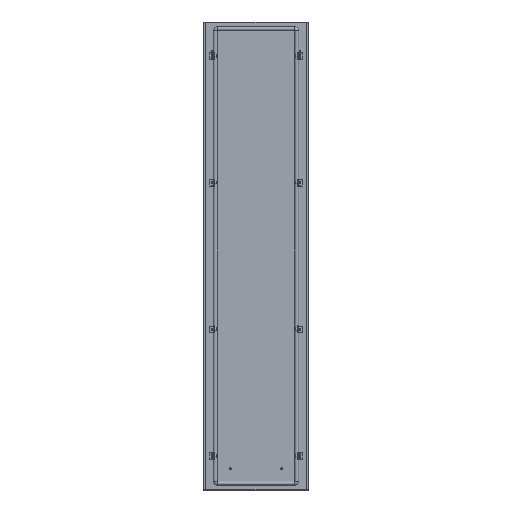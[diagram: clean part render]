
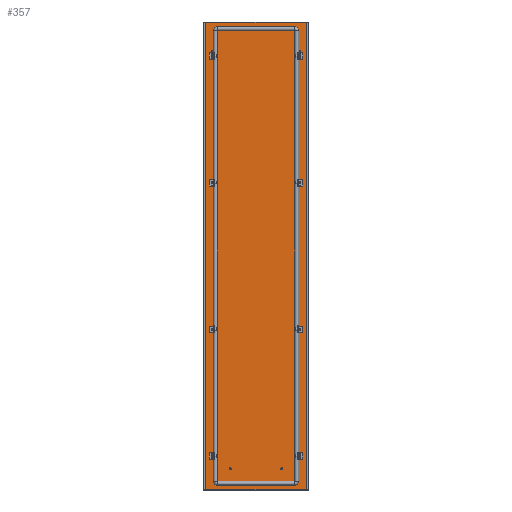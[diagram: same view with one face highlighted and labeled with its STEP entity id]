
A CAD part, top view. The second image highlights one B-rep face of the part: STEP entity #357.
In plain terms, the highlighted planar face has unit normal (0, 0, 1).
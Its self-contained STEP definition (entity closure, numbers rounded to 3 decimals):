
#357 = ADVANCED_FACE('',(#358,#456,#467,#478,#498,#518,#529,#540,#560),
  #580,.F.);
#358 = FACE_BOUND('',#359,.T.);
#359 = EDGE_LOOP('',(#360,#370,#378,#386,#394,#402,#410,#418,#426,#434,
    #442,#450));
#360 = ORIENTED_EDGE('',*,*,#361,.F.);
#361 = EDGE_CURVE('',#362,#364,#366,.T.);
#362 = VERTEX_POINT('',#363);
#363 = CARTESIAN_POINT('',(-195.5,877.5,0.));
#364 = VERTEX_POINT('',#365);
#365 = CARTESIAN_POINT('',(-195.3,877.5,0.));
#366 = LINE('',#367,#368);
#367 = CARTESIAN_POINT('',(0.,877.5,0.
    ));
#368 = VECTOR('',#369,1.);
#369 = DIRECTION('',(1.,0.,0.));
#370 = ORIENTED_EDGE('',*,*,#371,.T.);
#371 = EDGE_CURVE('',#362,#372,#374,.T.);
#372 = VERTEX_POINT('',#373);
#373 = CARTESIAN_POINT('',(-195.5,-877.5,0.));
#374 = LINE('',#375,#376);
#375 = CARTESIAN_POINT('',(-195.5,0.,0.));
#376 = VECTOR('',#377,1.);
#377 = DIRECTION('',(0.,-1.,-0.));
#378 = ORIENTED_EDGE('',*,*,#379,.T.);
#379 = EDGE_CURVE('',#372,#380,#382,.T.);
#380 = VERTEX_POINT('',#381);
#381 = CARTESIAN_POINT('',(-195.3,-877.5,0.));
#382 = LINE('',#383,#384);
#383 = CARTESIAN_POINT('',(0.,-877.5,
    0.));
#384 = VECTOR('',#385,1.);
#385 = DIRECTION('',(1.,-0.,-0.));
#386 = ORIENTED_EDGE('',*,*,#387,.F.);
#387 = EDGE_CURVE('',#388,#380,#390,.T.);
#388 = VERTEX_POINT('',#389);
#389 = CARTESIAN_POINT('',(-195.3,-876.,0.));
#390 = LINE('',#391,#392);
#391 = CARTESIAN_POINT('',(-195.3,0.,0.
    ));
#392 = VECTOR('',#393,1.);
#393 = DIRECTION('',(0.,-1.,0.));
#394 = ORIENTED_EDGE('',*,*,#395,.T.);
#395 = EDGE_CURVE('',#388,#396,#398,.T.);
#396 = VERTEX_POINT('',#397);
#397 = CARTESIAN_POINT('',(195.3,-876.,0.));
#398 = LINE('',#399,#400);
#399 = CARTESIAN_POINT('',(0.,-876.,0.
    ));
#400 = VECTOR('',#401,1.);
#401 = DIRECTION('',(1.,-0.,-0.));
#402 = ORIENTED_EDGE('',*,*,#403,.T.);
#403 = EDGE_CURVE('',#396,#404,#406,.T.);
#404 = VERTEX_POINT('',#405);
#405 = CARTESIAN_POINT('',(195.3,-877.5,0.));
#406 = LINE('',#407,#408);
#407 = CARTESIAN_POINT('',(195.3,-876.,0.));
#408 = VECTOR('',#409,1.);
#409 = DIRECTION('',(0.,-1.,-0.));
#410 = ORIENTED_EDGE('',*,*,#411,.F.);
#411 = EDGE_CURVE('',#412,#404,#414,.T.);
#412 = VERTEX_POINT('',#413);
#413 = CARTESIAN_POINT('',(195.5,-877.5,0.));
#414 = LINE('',#415,#416);
#415 = CARTESIAN_POINT('',(0.,-877.5,
    0.));
#416 = VECTOR('',#417,1.);
#417 = DIRECTION('',(-1.,0.,0.));
#418 = ORIENTED_EDGE('',*,*,#419,.T.);
#419 = EDGE_CURVE('',#412,#420,#422,.T.);
#420 = VERTEX_POINT('',#421);
#421 = CARTESIAN_POINT('',(195.5,877.5,0.));
#422 = LINE('',#423,#424);
#423 = CARTESIAN_POINT('',(195.5,0.,0.));
#424 = VECTOR('',#425,1.);
#425 = DIRECTION('',(-0.,1.,-0.));
#426 = ORIENTED_EDGE('',*,*,#427,.T.);
#427 = EDGE_CURVE('',#420,#428,#430,.T.);
#428 = VERTEX_POINT('',#429);
#429 = CARTESIAN_POINT('',(195.3,877.5,0.));
#430 = LINE('',#431,#432);
#431 = CARTESIAN_POINT('',(0.,877.5,0.
    ));
#432 = VECTOR('',#433,1.);
#433 = DIRECTION('',(-1.,-0.,-0.));
#434 = ORIENTED_EDGE('',*,*,#435,.F.);
#435 = EDGE_CURVE('',#436,#428,#438,.T.);
#436 = VERTEX_POINT('',#437);
#437 = CARTESIAN_POINT('',(195.3,876.,0.));
#438 = LINE('',#439,#440);
#439 = CARTESIAN_POINT('',(195.3,0.,
    0.));
#440 = VECTOR('',#441,1.);
#441 = DIRECTION('',(0.,1.,0.));
#442 = ORIENTED_EDGE('',*,*,#443,.T.);
#443 = EDGE_CURVE('',#436,#444,#446,.T.);
#444 = VERTEX_POINT('',#445);
#445 = CARTESIAN_POINT('',(-195.3,876.,0.));
#446 = LINE('',#447,#448);
#447 = CARTESIAN_POINT('',(0.,876.,0.)
  );
#448 = VECTOR('',#449,1.);
#449 = DIRECTION('',(-1.,-0.,-0.));
#450 = ORIENTED_EDGE('',*,*,#451,.T.);
#451 = EDGE_CURVE('',#444,#364,#452,.T.);
#452 = LINE('',#453,#454);
#453 = CARTESIAN_POINT('',(-195.3,876.,0.));
#454 = VECTOR('',#455,1.);
#455 = DIRECTION('',(0.,1.,-0.));
#456 = FACE_BOUND('',#457,.T.);
#457 = EDGE_LOOP('',(#458));
#458 = ORIENTED_EDGE('',*,*,#459,.T.);
#459 = EDGE_CURVE('',#460,#460,#462,.T.);
#460 = VERTEX_POINT('',#461);
#461 = CARTESIAN_POINT('',(-164.5,-270.25,0.));
#462 = CIRCLE('',#463,4.75);
#463 = AXIS2_PLACEMENT_3D('',#464,#465,#466);
#464 = CARTESIAN_POINT('',(-164.5,-275.,0.));
#465 = DIRECTION('',(0.,0.,-1.));
#466 = DIRECTION('',(0.,1.,0.));
#467 = FACE_BOUND('',#468,.T.);
#468 = EDGE_LOOP('',(#469));
#469 = ORIENTED_EDGE('',*,*,#470,.T.);
#470 = EDGE_CURVE('',#471,#471,#473,.T.);
#471 = VERTEX_POINT('',#472);
#472 = CARTESIAN_POINT('',(164.5,-279.75,0.));
#473 = CIRCLE('',#474,4.75);
#474 = AXIS2_PLACEMENT_3D('',#475,#476,#477);
#475 = CARTESIAN_POINT('',(164.5,-275.,0.));
#476 = DIRECTION('',(-0.,0.,-1.));
#477 = DIRECTION('',(0.,-1.,0.));
#478 = FACE_BOUND('',#479,.T.);
#479 = EDGE_LOOP('',(#480,#491));
#480 = ORIENTED_EDGE('',*,*,#481,.F.);
#481 = EDGE_CURVE('',#482,#484,#486,.T.);
#482 = VERTEX_POINT('',#483);
#483 = CARTESIAN_POINT('',(-164.5,754.75,0.));
#484 = VERTEX_POINT('',#485);
#485 = CARTESIAN_POINT('',(-164.5,745.25,0.));
#486 = CIRCLE('',#487,4.75);
#487 = AXIS2_PLACEMENT_3D('',#488,#489,#490);
#488 = CARTESIAN_POINT('',(-164.5,750.,0.));
#489 = DIRECTION('',(0.,0.,1.));
#490 = DIRECTION('',(0.,1.,0.));
#491 = ORIENTED_EDGE('',*,*,#492,.F.);
#492 = EDGE_CURVE('',#484,#482,#493,.T.);
#493 = CIRCLE('',#494,4.75);
#494 = AXIS2_PLACEMENT_3D('',#495,#496,#497);
#495 = CARTESIAN_POINT('',(-164.5,750.,0.));
#496 = DIRECTION('',(0.,0.,1.));
#497 = DIRECTION('',(0.,1.,0.));
#498 = FACE_BOUND('',#499,.T.);
#499 = EDGE_LOOP('',(#500,#511));
#500 = ORIENTED_EDGE('',*,*,#501,.F.);
#501 = EDGE_CURVE('',#502,#504,#506,.T.);
#502 = VERTEX_POINT('',#503);
#503 = CARTESIAN_POINT('',(164.5,745.25,0.));
#504 = VERTEX_POINT('',#505);
#505 = CARTESIAN_POINT('',(164.5,754.75,0.));
#506 = CIRCLE('',#507,4.75);
#507 = AXIS2_PLACEMENT_3D('',#508,#509,#510);
#508 = CARTESIAN_POINT('',(164.5,750.,0.));
#509 = DIRECTION('',(0.,0.,1.));
#510 = DIRECTION('',(0.,-1.,0.));
#511 = ORIENTED_EDGE('',*,*,#512,.F.);
#512 = EDGE_CURVE('',#504,#502,#513,.T.);
#513 = CIRCLE('',#514,4.75);
#514 = AXIS2_PLACEMENT_3D('',#515,#516,#517);
#515 = CARTESIAN_POINT('',(164.5,750.,0.));
#516 = DIRECTION('',(0.,0.,1.));
#517 = DIRECTION('',(0.,-1.,0.));
#518 = FACE_BOUND('',#519,.T.);
#519 = EDGE_LOOP('',(#520));
#520 = ORIENTED_EDGE('',*,*,#521,.T.);
#521 = EDGE_CURVE('',#522,#522,#524,.T.);
#522 = VERTEX_POINT('',#523);
#523 = CARTESIAN_POINT('',(-164.5,-745.25,0.));
#524 = CIRCLE('',#525,4.75);
#525 = AXIS2_PLACEMENT_3D('',#526,#527,#528);
#526 = CARTESIAN_POINT('',(-164.5,-750.,0.));
#527 = DIRECTION('',(0.,0.,-1.));
#528 = DIRECTION('',(0.,1.,0.));
#529 = FACE_BOUND('',#530,.T.);
#530 = EDGE_LOOP('',(#531));
#531 = ORIENTED_EDGE('',*,*,#532,.T.);
#532 = EDGE_CURVE('',#533,#533,#535,.T.);
#533 = VERTEX_POINT('',#534);
#534 = CARTESIAN_POINT('',(164.5,-754.75,0.));
#535 = CIRCLE('',#536,4.75);
#536 = AXIS2_PLACEMENT_3D('',#537,#538,#539);
#537 = CARTESIAN_POINT('',(164.5,-750.,0.));
#538 = DIRECTION('',(-0.,0.,-1.));
#539 = DIRECTION('',(0.,-1.,0.));
#540 = FACE_BOUND('',#541,.T.);
#541 = EDGE_LOOP('',(#542,#553));
#542 = ORIENTED_EDGE('',*,*,#543,.F.);
#543 = EDGE_CURVE('',#544,#546,#548,.T.);
#544 = VERTEX_POINT('',#545);
#545 = CARTESIAN_POINT('',(164.5,270.25,0.));
#546 = VERTEX_POINT('',#547);
#547 = CARTESIAN_POINT('',(164.5,279.75,0.));
#548 = CIRCLE('',#549,4.75);
#549 = AXIS2_PLACEMENT_3D('',#550,#551,#552);
#550 = CARTESIAN_POINT('',(164.5,275.,0.));
#551 = DIRECTION('',(0.,0.,1.));
#552 = DIRECTION('',(0.,-1.,0.));
#553 = ORIENTED_EDGE('',*,*,#554,.F.);
#554 = EDGE_CURVE('',#546,#544,#555,.T.);
#555 = CIRCLE('',#556,4.75);
#556 = AXIS2_PLACEMENT_3D('',#557,#558,#559);
#557 = CARTESIAN_POINT('',(164.5,275.,0.));
#558 = DIRECTION('',(0.,0.,1.));
#559 = DIRECTION('',(0.,-1.,0.));
#560 = FACE_BOUND('',#561,.T.);
#561 = EDGE_LOOP('',(#562,#573));
#562 = ORIENTED_EDGE('',*,*,#563,.F.);
#563 = EDGE_CURVE('',#564,#566,#568,.T.);
#564 = VERTEX_POINT('',#565);
#565 = CARTESIAN_POINT('',(-164.5,279.75,0.));
#566 = VERTEX_POINT('',#567);
#567 = CARTESIAN_POINT('',(-164.5,270.25,0.));
#568 = CIRCLE('',#569,4.75);
#569 = AXIS2_PLACEMENT_3D('',#570,#571,#572);
#570 = CARTESIAN_POINT('',(-164.5,275.,0.));
#571 = DIRECTION('',(0.,0.,1.));
#572 = DIRECTION('',(0.,1.,0.));
#573 = ORIENTED_EDGE('',*,*,#574,.F.);
#574 = EDGE_CURVE('',#566,#564,#575,.T.);
#575 = CIRCLE('',#576,4.75);
#576 = AXIS2_PLACEMENT_3D('',#577,#578,#579);
#577 = CARTESIAN_POINT('',(-164.5,275.,0.));
#578 = DIRECTION('',(0.,0.,1.));
#579 = DIRECTION('',(0.,1.,0.));
#580 = PLANE('',#581);
#581 = AXIS2_PLACEMENT_3D('',#582,#583,#584);
#582 = CARTESIAN_POINT('',(0.,0.,0.));
#583 = DIRECTION('',(0.,0.,-1.));
#584 = DIRECTION('',(-1.,0.,0.));
